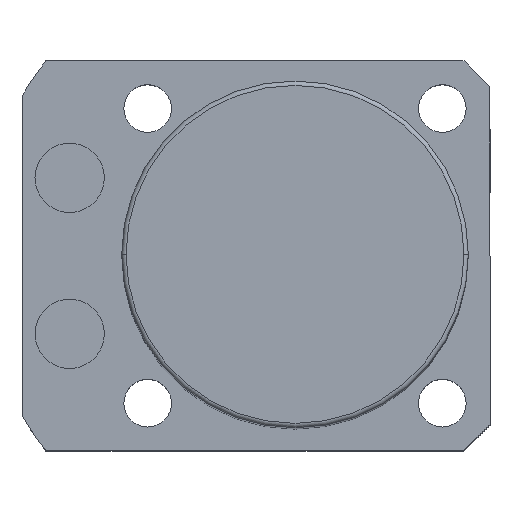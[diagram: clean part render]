
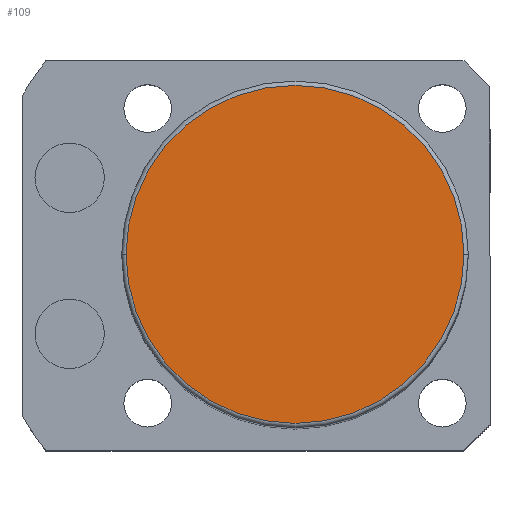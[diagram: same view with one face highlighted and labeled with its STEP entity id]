
A CAD part, top view. The second image highlights one B-rep face of the part: STEP entity #109.
In plain terms, the highlighted planar face has unit normal (0, 0, 1).
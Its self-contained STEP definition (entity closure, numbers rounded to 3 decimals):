
#109 = ADVANCED_FACE ( 'NONE', ( #2547 ), #2020, .T. ) ;
#138 = EDGE_CURVE ( 'NONE', #329, #1785, #1938, .T. ) ;
#176 = AXIS2_PLACEMENT_3D ( 'NONE', #289, #1688, #1912 ) ;
#197 = DIRECTION ( 'NONE',  ( 1., 0., 0. ) ) ;
#252 = CARTESIAN_POINT ( 'NONE',  ( 19.5, 0., 108.5 ) ) ;
#284 = EDGE_CURVE ( 'NONE', #1785, #329, #2141, .T. ) ;
#289 = CARTESIAN_POINT ( 'NONE',  ( 0., 0., 108.5 ) ) ;
#329 = VERTEX_POINT ( 'NONE', #252 ) ;
#392 = CARTESIAN_POINT ( 'NONE',  ( 0., 0., 108.5 ) ) ;
#454 = DIRECTION ( 'NONE',  ( 0., 0., 1. ) ) ;
#455 = CARTESIAN_POINT ( 'NONE',  ( -19.5, 0., 108.5 ) ) ;
#923 = AXIS2_PLACEMENT_3D ( 'NONE', #2709, #454, #1061 ) ;
#978 = ORIENTED_EDGE ( 'NONE', *, *, #138, .T. ) ;
#986 = DIRECTION ( 'NONE',  ( 0., 0., 1. ) ) ;
#1061 = DIRECTION ( 'NONE',  ( 1., 0., 0. ) ) ;
#1688 = DIRECTION ( 'NONE',  ( 0., 0., 1. ) ) ;
#1785 = VERTEX_POINT ( 'NONE', #455 ) ;
#1796 = AXIS2_PLACEMENT_3D ( 'NONE', #392, #986, #197 ) ;
#1912 = DIRECTION ( 'NONE',  ( 1., 0., 0. ) ) ;
#1938 = CIRCLE ( 'NONE', #923, 19.5 ) ;
#1942 = ORIENTED_EDGE ( 'NONE', *, *, #284, .T. ) ;
#2020 = PLANE ( 'NONE',  #1796 ) ;
#2141 = CIRCLE ( 'NONE', #176, 19.5 ) ;
#2547 = FACE_OUTER_BOUND ( 'NONE', #2716, .T. ) ;
#2709 = CARTESIAN_POINT ( 'NONE',  ( 0., 0., 108.5 ) ) ;
#2716 = EDGE_LOOP ( 'NONE', ( #978, #1942 ) ) ;
